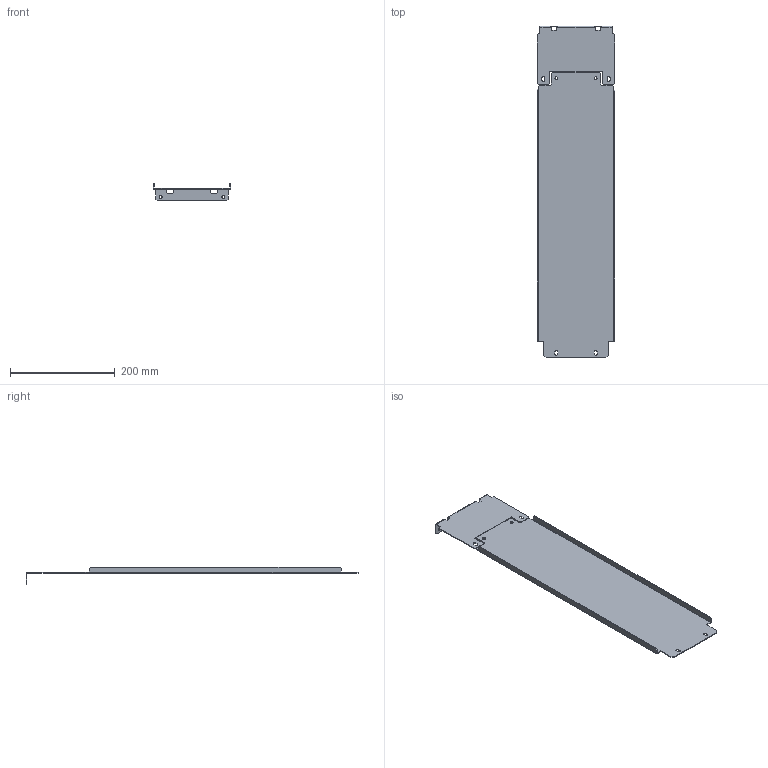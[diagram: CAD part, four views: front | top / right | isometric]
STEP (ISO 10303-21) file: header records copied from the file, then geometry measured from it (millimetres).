
FILE_DESCRIPTION(('CAx-IF Rec.Pracs.---Model Styling and Organization---1.2---2011-12-15','CAx-IF Rec.Pracs.---Geometric and Assembly Validation Properties---4.1---2014-06-16','CAx-IF Rec.Pracs.---PMI Polyline Presentation---2.0---2013-05-24'),'2;1');
FILE_NAME('R5SBT46154P.stp','2021-05-06T02:33:32+03:00',(''),(''),'STEP Interface 4.4 by CT CoreTechnologie','3D_Evolution4.4 by CT CoreTechnologie','');
FILE_SCHEMA(('AUTOMOTIVE_DESIGN { 1 0 10303 214 1 1 1 1 }'));
Length unit declared in the file: millimetre
Products named in the file (3): R5SBT46154P; RB.1051.00.00.0_-00; RB.0525.00.00.0_-00
Assembly tree (2 placements, depth 2):
  R5SBT46154P
    RB.1051.00.00.0_-00
    RB.0525.00.00.0_-00
Bounding box: 148 x 634.5 x 34 mm (x, y, z)
Surface area: 211114.1 mm2 (no closed solid volume)
Topology: 0 solids, 2 shells, 132 faces, 360 edges, 228 vertices
Faces by surface type: plane 106, cylinder 26
Entity records: 4246 total; most frequent: CARTESIAN_POINT 723, ORIENTED_EDGE 720, DIRECTION 682, EDGE_CURVE 360, VECTOR 308, LINE 308, VERTEX_POINT 228, AXIS2_PLACEMENT_3D 187
